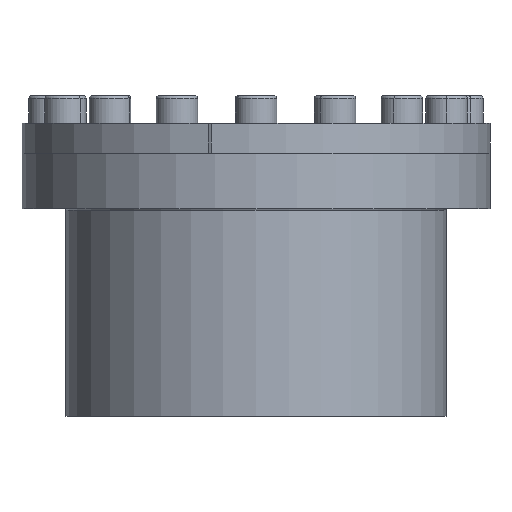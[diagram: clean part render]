
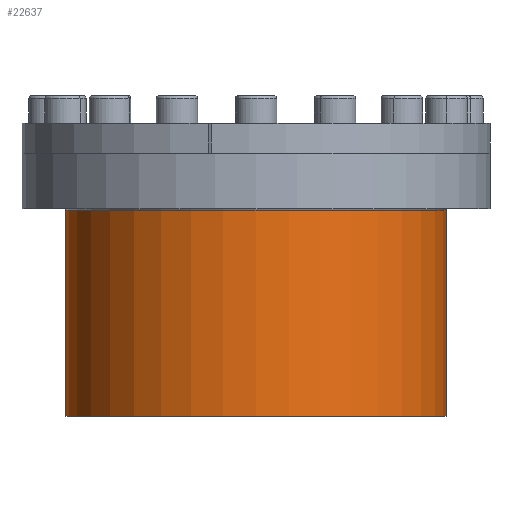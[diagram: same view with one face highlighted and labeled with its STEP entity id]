
A CAD part, front view. The second image highlights one B-rep face of the part: STEP entity #22637.
In plain terms, the highlighted cylindrical face has radius 82.5 mm (diameter 165 mm), a partial arc.
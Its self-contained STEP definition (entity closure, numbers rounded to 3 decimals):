
#172 = CIRCLE ( 'NONE', #18908, 82.5 ) ;
#892 = FACE_OUTER_BOUND ( 'NONE', #20476, .T. ) ;
#1144 = ORIENTED_EDGE ( 'NONE', *, *, #15670, .F. ) ;
#3421 = DIRECTION ( 'NONE',  ( 0., 0., -1. ) ) ;
#3461 = CARTESIAN_POINT ( 'NONE',  ( 0., 0., -17. ) ) ;
#3495 = CYLINDRICAL_SURFACE ( 'NONE', #16621, 82.5 ) ;
#3776 = VECTOR ( 'NONE', #22305, 1000. ) ;
#4676 = CARTESIAN_POINT ( 'NONE',  ( 0., 0., -107. ) ) ;
#5725 = CARTESIAN_POINT ( 'NONE',  ( 82.5, 0., -107. ) ) ;
#6002 = EDGE_CURVE ( 'NONE', #10373, #13202, #16559, .T. ) ;
#6515 = DIRECTION ( 'NONE',  ( -1., 0., 0. ) ) ;
#6683 = ORIENTED_EDGE ( 'NONE', *, *, #6002, .F. ) ;
#7990 = EDGE_CURVE ( 'NONE', #17572, #16154, #172, .T. ) ;
#8448 = CARTESIAN_POINT ( 'NONE',  ( 0., 0., -17.6 ) ) ;
#9150 = ORIENTED_EDGE ( 'NONE', *, *, #14807, .T. ) ;
#9519 = CARTESIAN_POINT ( 'NONE',  ( -82.5, 0., -17. ) ) ;
#10280 = DIRECTION ( 'NONE',  ( -1., 0., 0. ) ) ;
#10373 = VERTEX_POINT ( 'NONE', #5725 ) ;
#10622 = DIRECTION ( 'NONE',  ( 0., 0., -1. ) ) ;
#11841 = VECTOR ( 'NONE', #3421, 1000. ) ;
#12586 = DIRECTION ( 'NONE',  ( -1., 0., 0. ) ) ;
#13202 = VERTEX_POINT ( 'NONE', #16551 ) ;
#13835 = AXIS2_PLACEMENT_3D ( 'NONE', #4676, #17418, #6515 ) ;
#14313 = CARTESIAN_POINT ( 'NONE',  ( 82.5, 0., -17. ) ) ;
#14807 = EDGE_CURVE ( 'NONE', #16154, #13202, #22545, .T. ) ;
#15670 = EDGE_CURVE ( 'NONE', #17572, #10373, #21540, .T. ) ;
#16154 = VERTEX_POINT ( 'NONE', #17986 ) ;
#16550 = ORIENTED_EDGE ( 'NONE', *, *, #7990, .T. ) ;
#16551 = CARTESIAN_POINT ( 'NONE',  ( -82.5, 0., -107. ) ) ;
#16559 = CIRCLE ( 'NONE', #13835, 82.5 ) ;
#16621 = AXIS2_PLACEMENT_3D ( 'NONE', #3461, #10622, #12586 ) ;
#17418 = DIRECTION ( 'NONE',  ( 0., 0., -1. ) ) ;
#17572 = VERTEX_POINT ( 'NONE', #23444 ) ;
#17986 = CARTESIAN_POINT ( 'NONE',  ( -82.5, 0., -17.6 ) ) ;
#18908 = AXIS2_PLACEMENT_3D ( 'NONE', #8448, #21177, #10280 ) ;
#20476 = EDGE_LOOP ( 'NONE', ( #1144, #16550, #9150, #6683 ) ) ;
#21177 = DIRECTION ( 'NONE',  ( 0., 0., -1. ) ) ;
#21540 = LINE ( 'NONE', #14313, #11841 ) ;
#22305 = DIRECTION ( 'NONE',  ( 0., 0., -1. ) ) ;
#22545 = LINE ( 'NONE', #9519, #3776 ) ;
#22637 = ADVANCED_FACE ( 'NONE', ( #892 ), #3495, .T. ) ;
#23444 = CARTESIAN_POINT ( 'NONE',  ( 82.5, 0., -17.6 ) ) ;
